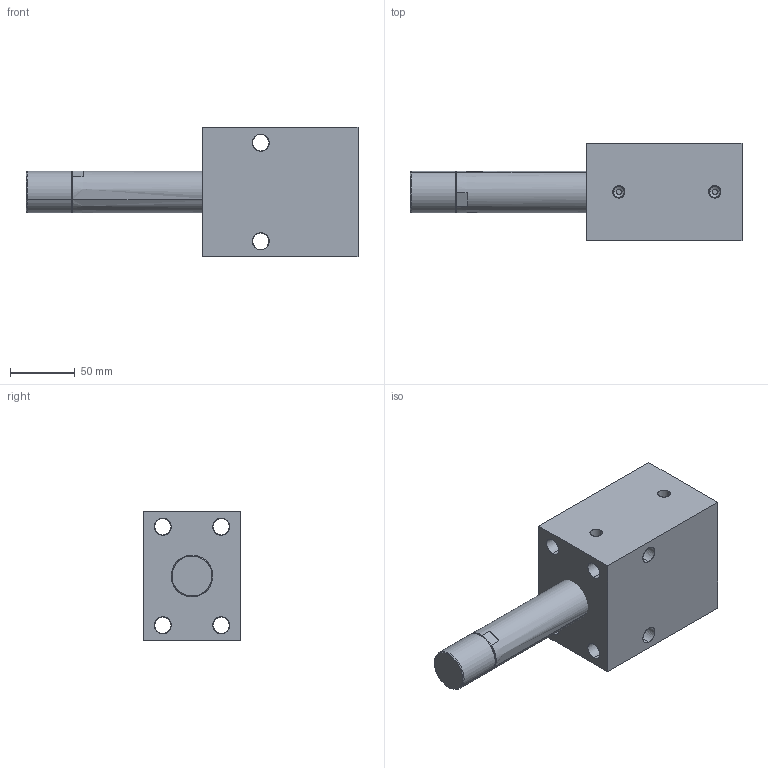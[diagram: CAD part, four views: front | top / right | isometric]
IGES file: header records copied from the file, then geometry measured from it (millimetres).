
Start section: SolidWorks IGES file using analytic representation for surfaces
Global section: file name: C:\Documents and Settings\rajib\Desktop\Rajib\BLOCK CYLINDER HYDRAULIC\0501-0506\IGS 0501-0508\0507.IGS; native system: SolidWorks 2007; preprocessor: SolidWorks 2007; author: rajib; date: 110121.103648; units: millimetre
Bounding box: 256 x 75 x 100 mm (x, y, z)
Surface area: 96200.7 mm2 (no closed solid volume)
Topology: 0 solids, 0 shells, 76 faces, 1824 edges, 1824 vertices
Faces by surface type: revolution 54, bspline 22
